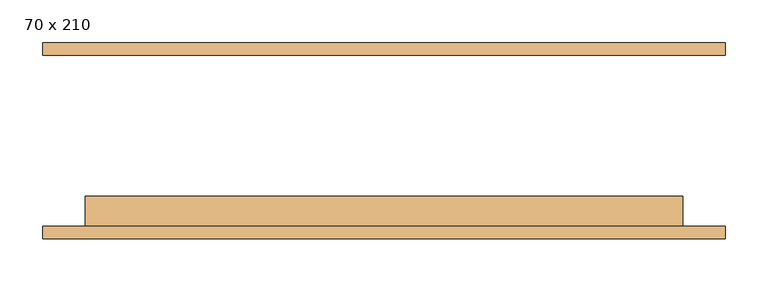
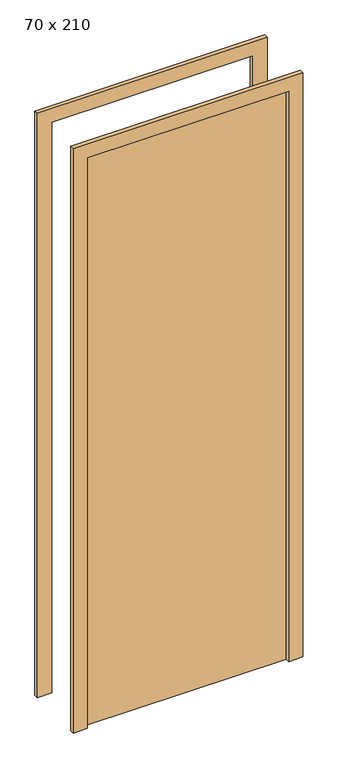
"""IFC4 building model written with IfcOpenShell, lengths in millimetres: door geometry, M_Descarga simples : 70 x 210."""

from ifc_helpers import new_model, si_unit, frame, origin, origin_with_axes, place, context, project, spatial, polyline, outline, extrude, source, transform, mapped, element, save


def door_70_x_210_2a34fc55(model_context):
    return source(origin(), model_context, "Body", "SweptSolid", [
        extrude(outline(polyline([(2150.0, -400.0), (0.0, -400.0), (0.0, -350.0), (2100.0, -350.0), (2100.0, 350.0), (0.0, 350.0), (0.0, 400.0), (2150.0, 400.0), (2150.0, -400.0)])), frame((0.0, -115.0, 0.0), z_axis=(0.0, 1.0, 0.0), x_axis=(0.0, 0.0, 1.0)), (0.0, 0.0, 1.0), 15.0),
        extrude(outline(polyline([(2150.0, 400.0), (2150.0, -400.0), (0.0, -400.0), (0.0, -350.0), (2100.0, -350.0), (2100.0, 350.0), (0.0, 350.0), (0.0, 400.0), (2150.0, 400.0)])), frame((0.0, 100.0, 0.0), z_axis=(0.0, 1.0, 0.0), x_axis=(0.0, 0.0, 1.0)), (0.0, 0.0, 1.0), 15.0),
        extrude(outline(polyline([(350.0, -65.0), (350.0, -100.0), (-350.0, -100.0), (-350.0, -65.0), (350.0, -65.0)])), origin_with_axes(), (0.0, 0.0, 1.0), 2100.0),
    ])


if __name__ == "__main__":
    model = new_model("IFC4")
    model_context = context("Model", 3, world=origin())
    ifc_project = project(units=[si_unit("LENGTHUNIT", "METRE", prefix="MILLI")], contexts=[model_context])
    site = spatial("IfcSite", under=ifc_project)
    building = spatial("IfcBuilding", under=site)
    placement = place(None, origin())
    door_70_x_210_shape = door_70_x_210_2a34fc55(model_context)
    element("IfcDoor", 1, ObjectType="M_Descarga simples : 70 x 210", at=placement, inside=building, context=model_context, shape_type="MappedRepresentation", body=[
        mapped(door_70_x_210_shape, transform((0.0, 0.0, 0.0), x_axis=(1.0, 0.0, 0.0), y_axis=(0.0, 1.0, 0.0), z_axis=(0.0, 0.0, 1.0))),
    ])
    save(model, "model.ifc")
